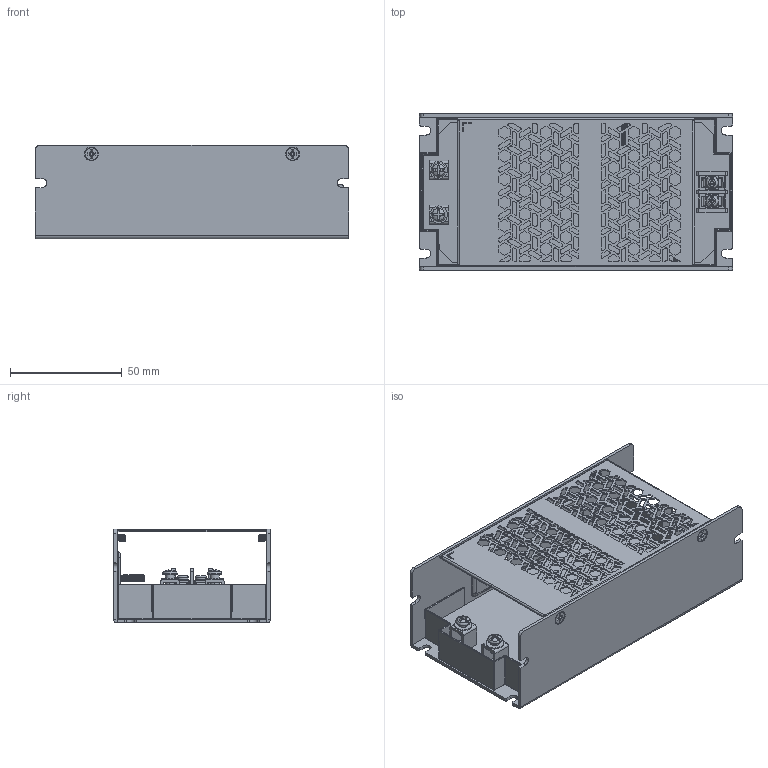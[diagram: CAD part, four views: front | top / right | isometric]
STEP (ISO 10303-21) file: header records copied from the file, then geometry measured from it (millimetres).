
FILE_DESCRIPTION((''),'2;1');
FILE_NAME('PV150-29BXXR3-V0','2023-08-11T',('pe201'),(''),'PRO/ENGINEER BY PARAMETRIC TECHNOLOGY CORPORATION, 2014000','PRO/ENGINEER BY PARAMETRIC TECHNOLOGY CORPORATION, 2014000','');
FILE_SCHEMA(('AUTOMOTIVE_DESIGN { 1 0 10303 214 1 1 1 1 }'));
Products named in the file (1): PV150-29BXXR3-V0
Bounding box: 140 x 70 x 42 mm (x, y, z)
Volume: 56087.7 mm3; surface area: 83834.1 mm2
Topology: 1 solids, 3 shells, 2834 faces, 8212 edges, 5392 vertices
Faces by surface type: plane 1496, cylinder 1023, bspline 141, torus 76, cone 75, sphere 12, extrusion 11
Entity records: 119147 total; most frequent: CARTESIAN_POINT 34085, ORIENTED_EDGE 16400, DIRECTION 15016, EDGE_CURVE 8200, VERTEX_POINT 5392, VECTOR 5344, LINE 5333, AXIS2_PLACEMENT_3D 4836
